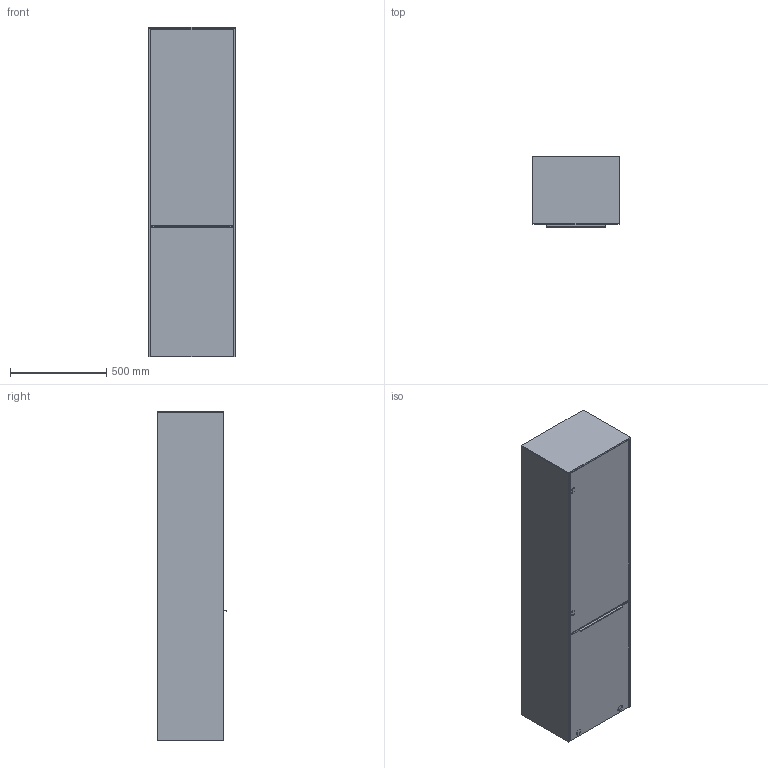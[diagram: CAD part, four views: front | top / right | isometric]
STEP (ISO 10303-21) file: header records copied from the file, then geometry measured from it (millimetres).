
FILE_DESCRIPTION(/* description */ (''),/* implementation_level */ '2;1');
FILE_NAME(/* name */ 'K:\ACAD\PERSPECT\Freisteller\V&B\Subway 3.0\Beischränke\TK068_C5920Z_RFS.stp',/* time_stamp */ '2021-05-12T09:46:35+02:00',/* author */ ('StegeR'),/* organization */ (''),/* preprocessor_version */ 'ST-DEVELOPER v16.1',/* originating_system */ 'Autodesk Inventor 2016',/* authorisation */ '');
FILE_SCHEMA (('AUTOMOTIVE_DESIGN { 1 0 10303 214 3 1 1 }'));
Products named in the file (1): TK068_C5920Z_RFS
Bounding box: 451 x 362 x 1710 mm (x, y, z)
Volume: 55357536.5 mm3; surface area: 10620276.4 mm2
Topology: 41 solids, 41 shells, 1816 faces, 4940 edges, 3262 vertices
Faces by surface type: plane 1103, cylinder 593, bspline 46, cone 37, torus 23, sphere 14
Full cylindrical faces by diameter (mm): 6.9 x1, 9.83 x1, 11 x44, 12 x1, 15 x14, 19.5 x24
Entity records: 59778 total; most frequent: CARTESIAN_POINT 13824, ORIENTED_EDGE 9512, DIRECTION 9252, EDGE_CURVE 4756, LINE 3306, VECTOR 3306, VERTEX_POINT 3171, AXIS2_PLACEMENT_3D 2973
